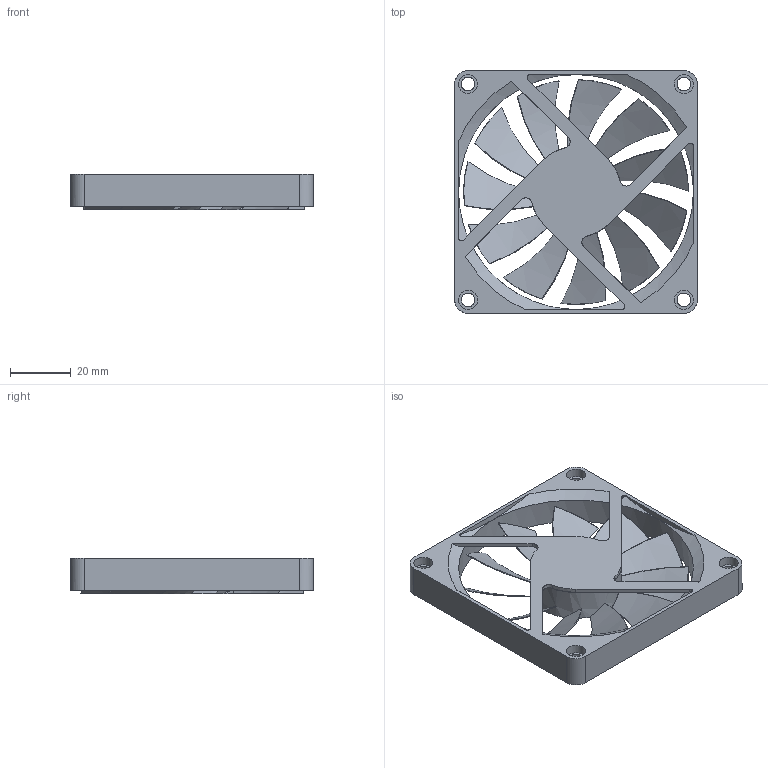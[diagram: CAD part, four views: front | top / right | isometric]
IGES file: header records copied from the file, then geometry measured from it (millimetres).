
Global section: file name: GDSTIME - 5v Fan; native system: unknown; preprocessor: unknown; author: unknown; organization: unknown; date: 20191202.181236; units: millimetre
Bounding box: 80 x 80 x 11.76 mm (x, y, z)
Volume: 18246.2 mm3; surface area: 20935.8 mm2
Topology: 12 solids, 13 shells, 127 faces, 329 edges, 222 vertices
Faces by surface type: bspline 127
